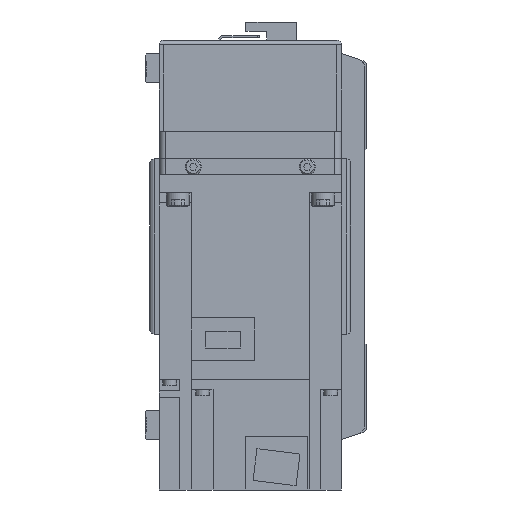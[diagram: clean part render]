
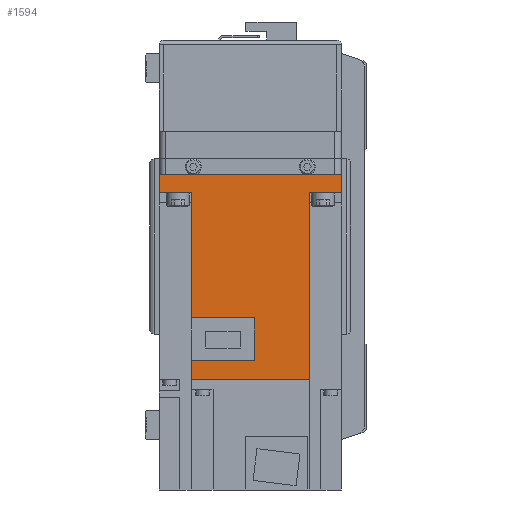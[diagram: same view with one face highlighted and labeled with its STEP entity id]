
A CAD part, left-side view. The second image highlights one B-rep face of the part: STEP entity #1594.
In plain terms, the highlighted planar face has unit normal (-1, 0, 0) as drawn and (1, 0, 0) by its records, which use the part's own axes.
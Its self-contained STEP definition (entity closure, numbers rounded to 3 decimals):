
#1594 = ADVANCED_FACE( '', ( #3996 ), #3997, .F. );
#3996 = FACE_OUTER_BOUND( '', #7428, .T. );
#3997 = PLANE( '', #7429 );
#7428 = EDGE_LOOP( '', ( #12029, #12030, #12031, #12032, #12033, #12034, #12035, #12036, #12037, #12038, #12039, #12040 ) );
#7429 = AXIS2_PLACEMENT_3D( '', #12041, #12042, #12043 );
#12029 = ORIENTED_EDGE( '', *, *, #20576, .F. );
#12030 = ORIENTED_EDGE( '', *, *, #20577, .F. );
#12031 = ORIENTED_EDGE( '', *, *, #20578, .F. );
#12032 = ORIENTED_EDGE( '', *, *, #19794, .T. );
#12033 = ORIENTED_EDGE( '', *, *, #20579, .F. );
#12034 = ORIENTED_EDGE( '', *, *, #20580, .T. );
#12035 = ORIENTED_EDGE( '', *, *, #19441, .T. );
#12036 = ORIENTED_EDGE( '', *, *, #20581, .F. );
#12037 = ORIENTED_EDGE( '', *, *, #20582, .F. );
#12038 = ORIENTED_EDGE( '', *, *, #20583, .F. );
#12039 = ORIENTED_EDGE( '', *, *, #20516, .F. );
#12040 = ORIENTED_EDGE( '', *, *, #20584, .F. );
#12041 = CARTESIAN_POINT( '', ( 40., 89.8, 40. ) );
#12042 = DIRECTION( '', ( -1., 0., 0. ) );
#12043 = DIRECTION( '', ( 0., 0., 1. ) );
#19441 = EDGE_CURVE( '', #23034, #23032, #23035, .T. );
#19794 = EDGE_CURVE( '', #23671, #23669, #23672, .T. );
#20516 = EDGE_CURVE( '', #24922, #24923, #24924, .T. );
#20576 = EDGE_CURVE( '', #25022, #25023, #25024, .T. );
#20577 = EDGE_CURVE( '', #25025, #25022, #25026, .T. );
#20578 = EDGE_CURVE( '', #23671, #25025, #25027, .T. );
#20579 = EDGE_CURVE( '', #25028, #23669, #25029, .T. );
#20580 = EDGE_CURVE( '', #25028, #23034, #25030, .T. );
#20581 = EDGE_CURVE( '', #25031, #23032, #25032, .T. );
#20582 = EDGE_CURVE( '', #25033, #25031, #25034, .T. );
#20583 = EDGE_CURVE( '', #24923, #25033, #25035, .T. );
#20584 = EDGE_CURVE( '', #25023, #24922, #25036, .T. );
#23032 = VERTEX_POINT( '', #28377 );
#23034 = VERTEX_POINT( '', #28380 );
#23035 = LINE( '', #28381, #28382 );
#23669 = VERTEX_POINT( '', #29235 );
#23671 = VERTEX_POINT( '', #29238 );
#23672 = LINE( '', #29239, #29240 );
#24922 = VERTEX_POINT( '', #31217 );
#24923 = VERTEX_POINT( '', #31218 );
#24924 = LINE( '', #31219, #31220 );
#25022 = VERTEX_POINT( '', #31357 );
#25023 = VERTEX_POINT( '', #31358 );
#25024 = LINE( '', #31359, #31360 );
#25025 = VERTEX_POINT( '', #31361 );
#25026 = LINE( '', #31362, #31363 );
#25027 = LINE( '', #31364, #31365 );
#25028 = VERTEX_POINT( '', #31366 );
#25029 = LINE( '', #31367, #31368 );
#25030 = LINE( '', #31369, #31370 );
#25031 = VERTEX_POINT( '', #31371 );
#25032 = LINE( '', #31372, #31373 );
#25033 = VERTEX_POINT( '', #31374 );
#25034 = LINE( '', #31375, #31376 );
#25035 = LINE( '', #31377, #31378 );
#25036 = LINE( '', #31379, #31380 );
#28377 = CARTESIAN_POINT( '', ( 40., 0., -40. ) );
#28380 = CARTESIAN_POINT( '', ( 40., 0., 40. ) );
#28381 = CARTESIAN_POINT( '', ( 40., 0., 40. ) );
#28382 = VECTOR( '', #36372, 1000. );
#29235 = CARTESIAN_POINT( '', ( 40., 8., 25.95 ) );
#29238 = CARTESIAN_POINT( '', ( 40., 89.8, 25.95 ) );
#29239 = CARTESIAN_POINT( '', ( 40., 158., 25.95 ) );
#29240 = VECTOR( '', #36844, 1000. );
#31217 = CARTESIAN_POINT( '', ( 40., 62.8, 1.8 ) );
#31218 = CARTESIAN_POINT( '', ( 40., 62.8, -25.95 ) );
#31219 = CARTESIAN_POINT( '', ( 40., 62.8, 1.8 ) );
#31220 = VECTOR( '', #37856, 1000. );
#31357 = CARTESIAN_POINT( '', ( 40., 81.4, -25.95 ) );
#31358 = CARTESIAN_POINT( '', ( 40., 81.4, 1.8 ) );
#31359 = CARTESIAN_POINT( '', ( 40., 81.4, -26. ) );
#31360 = VECTOR( '', #37924, 1000. );
#31361 = CARTESIAN_POINT( '', ( 40., 89.8, -25.95 ) );
#31362 = CARTESIAN_POINT( '', ( 40., 158., -25.95 ) );
#31363 = VECTOR( '', #37925, 1000. );
#31364 = CARTESIAN_POINT( '', ( 40., 89.8, 40. ) );
#31365 = VECTOR( '', #37926, 1000. );
#31366 = CARTESIAN_POINT( '', ( 40., 8., 40. ) );
#31367 = CARTESIAN_POINT( '', ( 40., 8., 40. ) );
#31368 = VECTOR( '', #37927, 1000. );
#31369 = CARTESIAN_POINT( '', ( 40., 89.8, 40. ) );
#31370 = VECTOR( '', #37928, 1000. );
#31371 = CARTESIAN_POINT( '', ( 40., 8., -40. ) );
#31372 = CARTESIAN_POINT( '', ( 40., 89.8, -40. ) );
#31373 = VECTOR( '', #37929, 1000. );
#31374 = CARTESIAN_POINT( '', ( 40., 8., -25.95 ) );
#31375 = CARTESIAN_POINT( '', ( 40., 8., 40. ) );
#31376 = VECTOR( '', #37930, 1000. );
#31377 = CARTESIAN_POINT( '', ( 40., 158., -25.95 ) );
#31378 = VECTOR( '', #37931, 1000. );
#31379 = CARTESIAN_POINT( '', ( 40., 81.4, 1.8 ) );
#31380 = VECTOR( '', #37932, 1000. );
#36372 = DIRECTION( '', ( 0., 0., -1. ) );
#36844 = DIRECTION( '', ( 0., -1., 0. ) );
#37856 = DIRECTION( '', ( 0., 0., -1. ) );
#37924 = DIRECTION( '', ( 0., 0., 1. ) );
#37925 = DIRECTION( '', ( 0., -1., 0. ) );
#37926 = DIRECTION( '', ( 0., 0., -1. ) );
#37927 = DIRECTION( '', ( 0., 0., -1. ) );
#37928 = DIRECTION( '', ( 0., -1., 0. ) );
#37929 = DIRECTION( '', ( 0., -1., 0. ) );
#37930 = DIRECTION( '', ( 0., 0., -1. ) );
#37931 = DIRECTION( '', ( 0., -1., 0. ) );
#37932 = DIRECTION( '', ( 0., -1., 0. ) );
